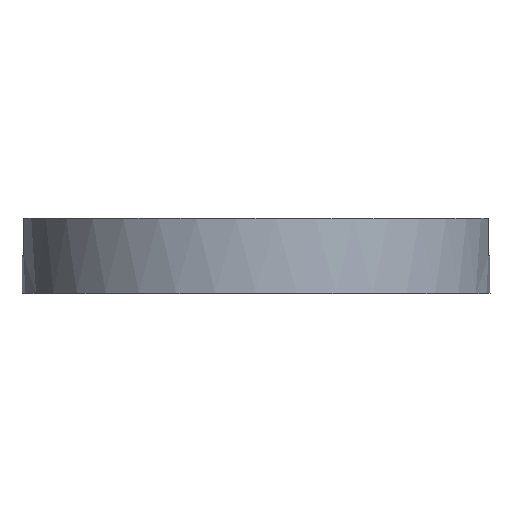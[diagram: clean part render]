
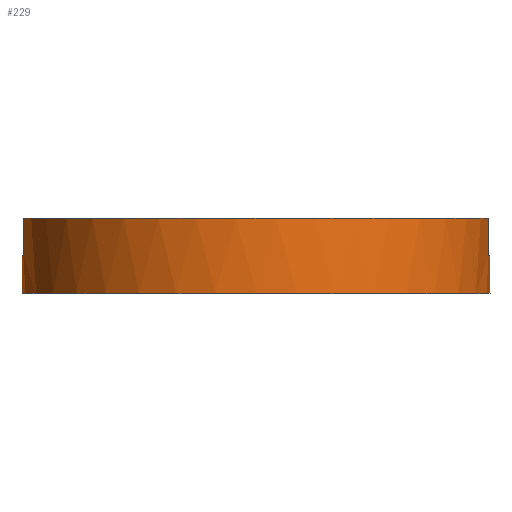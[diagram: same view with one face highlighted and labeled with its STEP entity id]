
A CAD part, top view. The second image highlights one B-rep face of the part: STEP entity #229.
In plain terms, the highlighted cylindrical face has radius 62.5 mm (diameter 125 mm), a full revolution.
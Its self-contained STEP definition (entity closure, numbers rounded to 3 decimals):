
#159=CYLINDRICAL_SURFACE('',#1568,62.5);
#229=ADVANCED_FACE('',(#531,#532),#159,.T.);
#319=LINE('',#2310,#375);
#320=LINE('',#2314,#376);
#321=LINE('',#2315,#377);
#322=LINE('',#2319,#378);
#375=VECTOR('',#1901,1.);
#376=VECTOR('',#1904,1.);
#377=VECTOR('',#1905,1.);
#378=VECTOR('',#1908,1.);
#531=FACE_BOUND('',#669,.T.);
#532=FACE_BOUND('',#670,.T.);
#669=EDGE_LOOP('',(#866,#867,#868,#869,#870,#871,#872,#873));
#670=EDGE_LOOP('',(#874));
#866=ORIENTED_EDGE('',*,*,#1189,.F.);
#867=ORIENTED_EDGE('',*,*,#1263,.T.);
#868=ORIENTED_EDGE('',*,*,#1264,.F.);
#869=ORIENTED_EDGE('',*,*,#1265,.T.);
#870=ORIENTED_EDGE('',*,*,#1197,.F.);
#871=ORIENTED_EDGE('',*,*,#1266,.T.);
#872=ORIENTED_EDGE('',*,*,#1267,.F.);
#873=ORIENTED_EDGE('',*,*,#1268,.T.);
#874=ORIENTED_EDGE('',*,*,#1222,.F.);
#1060=VERTEX_POINT('',#2115);
#1061=VERTEX_POINT('',#2117);
#1068=VERTEX_POINT('',#2131);
#1069=VERTEX_POINT('',#2133);
#1093=VERTEX_POINT('',#2183);
#1134=VERTEX_POINT('',#2311);
#1135=VERTEX_POINT('',#2313);
#1136=VERTEX_POINT('',#2316);
#1137=VERTEX_POINT('',#2318);
#1189=EDGE_CURVE('',#1060,#1061,#1349,.T.);
#1197=EDGE_CURVE('',#1068,#1069,#1355,.T.);
#1222=EDGE_CURVE('',#1093,#1093,#1375,.T.);
#1263=EDGE_CURVE('',#1060,#1134,#319,.T.);
#1264=EDGE_CURVE('',#1135,#1134,#1412,.T.);
#1265=EDGE_CURVE('',#1135,#1069,#320,.T.);
#1266=EDGE_CURVE('',#1068,#1136,#321,.T.);
#1267=EDGE_CURVE('',#1137,#1136,#1413,.T.);
#1268=EDGE_CURVE('',#1137,#1061,#322,.T.);
#1349=CIRCLE('',#1456,62.5);
#1355=CIRCLE('',#1462,62.5);
#1375=CIRCLE('',#1483,62.5);
#1412=CIRCLE('',#1566,62.5);
#1413=CIRCLE('',#1567,62.5);
#1456=AXIS2_PLACEMENT_3D('',#2116,#1670,#1671);
#1462=AXIS2_PLACEMENT_3D('',#2132,#1684,#1685);
#1483=AXIS2_PLACEMENT_3D('',#2182,#1731,#1732);
#1566=AXIS2_PLACEMENT_3D('',#2312,#1902,#1903);
#1567=AXIS2_PLACEMENT_3D('',#2317,#1906,#1907);
#1568=AXIS2_PLACEMENT_3D('',#2320,#1909,#1910);
#1670=DIRECTION('',(0.,1.,0.));
#1671=DIRECTION('',(0.,0.,1.));
#1684=DIRECTION('',(0.,1.,0.));
#1685=DIRECTION('',(0.,0.,1.));
#1731=DIRECTION('',(0.,-1.,0.));
#1732=DIRECTION('',(0.,0.,-1.));
#1901=DIRECTION('',(0.,-1.,0.));
#1902=DIRECTION('',(0.,1.,0.));
#1903=DIRECTION('',(0.,0.,-1.));
#1904=DIRECTION('',(0.,1.,0.));
#1905=DIRECTION('',(0.,-1.,0.));
#1906=DIRECTION('',(0.,1.,0.));
#1907=DIRECTION('',(0.,0.,-1.));
#1908=DIRECTION('',(0.,1.,0.));
#1909=DIRECTION('',(0.,-1.,0.));
#1910=DIRECTION('',(0.,0.,-1.));
#2115=CARTESIAN_POINT('',(1156.173,691.636,-71.865));
#2116=CARTESIAN_POINT('',(1094.052,691.636,-65.));
#2117=CARTESIAN_POINT('',(1031.93,691.636,-71.865));
#2131=CARTESIAN_POINT('',(1031.93,691.636,-58.135));
#2132=CARTESIAN_POINT('',(1094.052,691.636,-65.));
#2133=CARTESIAN_POINT('',(1156.173,691.636,-58.135));
#2182=CARTESIAN_POINT('',(1094.052,671.636,-65.));
#2183=CARTESIAN_POINT('',(1094.052,671.636,-127.5));
#2310=CARTESIAN_POINT('',(1156.173,751.636,-71.865));
#2311=CARTESIAN_POINT('',(1156.173,681.636,-71.865));
#2312=CARTESIAN_POINT('',(1094.052,681.636,-65.));
#2313=CARTESIAN_POINT('',(1156.173,681.636,-58.135));
#2314=CARTESIAN_POINT('',(1156.173,751.636,-58.135));
#2315=CARTESIAN_POINT('',(1031.93,751.636,-58.135));
#2316=CARTESIAN_POINT('',(1031.93,681.636,-58.135));
#2317=CARTESIAN_POINT('',(1094.052,681.636,-65.));
#2318=CARTESIAN_POINT('',(1031.93,681.636,-71.865));
#2319=CARTESIAN_POINT('',(1031.93,751.636,-71.865));
#2320=CARTESIAN_POINT('',(1094.052,751.636,-65.));
